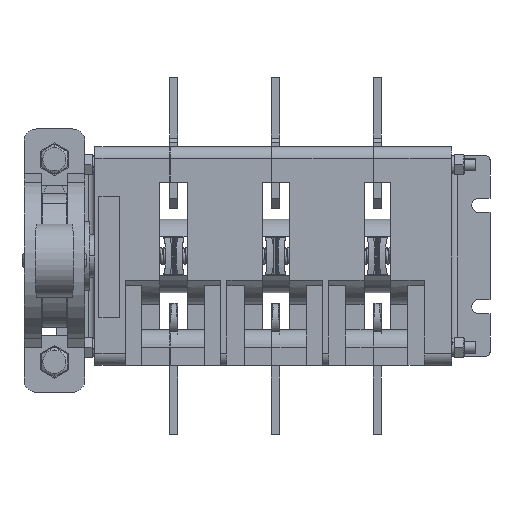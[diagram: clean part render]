
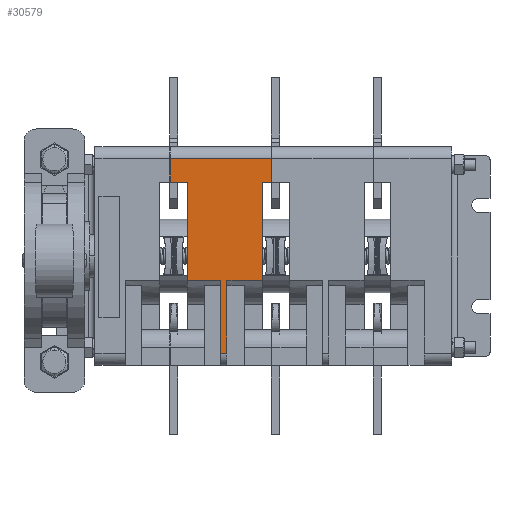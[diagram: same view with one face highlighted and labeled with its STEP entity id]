
A CAD part, front view. The second image highlights one B-rep face of the part: STEP entity #30579.
In plain terms, the highlighted planar face has unit normal (0, -1, 0) as drawn and (0, 1, 0) by its records, which use the part's own axes.
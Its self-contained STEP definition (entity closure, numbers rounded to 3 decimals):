
#226 = CARTESIAN_POINT ( 'NONE',  ( 36.5, 24., 0. ) ) ;
#267 = DIRECTION ( 'NONE',  ( 0., 0., -1. ) ) ;
#625 = CARTESIAN_POINT ( 'NONE',  ( -12., 24., 0. ) ) ;
#1460 = VERTEX_POINT ( 'NONE', #13496 ) ;
#1736 = PLANE ( 'NONE',  #26889 ) ;
#1745 = CARTESIAN_POINT ( 'NONE',  ( -48., 24., 16.5 ) ) ;
#1943 = VECTOR ( 'NONE', #9651, 1000. ) ;
#2130 = CARTESIAN_POINT ( 'NONE',  ( -48., 24., 19.5 ) ) ;
#3070 = EDGE_CURVE ( 'NONE', #11036, #35691, #59503, .T. ) ;
#3812 = ORIENTED_EDGE ( 'NONE', *, *, #8013, .F. ) ;
#4103 = CARTESIAN_POINT ( 'NONE',  ( -12., 24., 37. ) ) ;
#5347 = EDGE_CURVE ( 'NONE', #33474, #26994, #37505, .T. ) ;
#5512 = CARTESIAN_POINT ( 'NONE',  ( -48., 24., 19.5 ) ) ;
#5596 = VERTEX_POINT ( 'NONE', #39080 ) ;
#7627 = CARTESIAN_POINT ( 'NONE',  ( -48., 24., 16.5 ) ) ;
#7762 = VERTEX_POINT ( 'NONE', #7627 ) ;
#8013 = EDGE_CURVE ( 'NONE', #5596, #11036, #33528, .T. ) ;
#9651 = DIRECTION ( 'NONE',  ( -1., 0., 0. ) ) ;
#9930 = DIRECTION ( 'NONE',  ( 0., 0., 1. ) ) ;
#10214 = DIRECTION ( 'NONE',  ( -1., 0., 0. ) ) ;
#10983 = DIRECTION ( 'NONE',  ( -1., 0., 0. ) ) ;
#11036 = VERTEX_POINT ( 'NONE', #4103 ) ;
#11272 = EDGE_CURVE ( 'NONE', #58584, #33474, #56818, .T. ) ;
#13496 = CARTESIAN_POINT ( 'NONE',  ( 48., 24., 41.5 ) ) ;
#13625 = LINE ( 'NONE', #42566, #28243 ) ;
#13807 = ORIENTED_EDGE ( 'NONE', *, *, #3070, .F. ) ;
#13891 = CARTESIAN_POINT ( 'NONE',  ( 36.5, 24., -8.5 ) ) ;
#14057 = CARTESIAN_POINT ( 'NONE',  ( -48., 24., 19.5 ) ) ;
#16224 = CARTESIAN_POINT ( 'NONE',  ( 36.5, 24., 41.5 ) ) ;
#16299 = VECTOR ( 'NONE', #47539, 1000. ) ;
#17565 = ORIENTED_EDGE ( 'NONE', *, *, #11272, .T. ) ;
#17613 = VECTOR ( 'NONE', #9930, 1000. ) ;
#18668 = LINE ( 'NONE', #14057, #43731 ) ;
#18906 = CARTESIAN_POINT ( 'NONE',  ( -12., 24., 19.5 ) ) ;
#19709 = LINE ( 'NONE', #39431, #29926 ) ;
#20188 = LINE ( 'NONE', #5512, #37107 ) ;
#21021 = DIRECTION ( 'NONE',  ( 0., 0., -1. ) ) ;
#21636 = CARTESIAN_POINT ( 'NONE',  ( 48., 24., -8.5 ) ) ;
#22010 = ORIENTED_EDGE ( 'NONE', *, *, #53431, .F. ) ;
#22374 = LINE ( 'NONE', #56973, #31198 ) ;
#23014 = ORIENTED_EDGE ( 'NONE', *, *, #50406, .F. ) ;
#23897 = ORIENTED_EDGE ( 'NONE', *, *, #5347, .T. ) ;
#24347 = ORIENTED_EDGE ( 'NONE', *, *, #34873, .F. ) ;
#25515 = CARTESIAN_POINT ( 'NONE',  ( 36.5, 24., 41.5 ) ) ;
#25560 = EDGE_CURVE ( 'NONE', #1460, #52949, #19709, .T. ) ;
#26747 = FACE_OUTER_BOUND ( 'NONE', #57867, .T. ) ;
#26889 = AXIS2_PLACEMENT_3D ( 'NONE', #2130, #34998, #58540 ) ;
#26994 = VERTEX_POINT ( 'NONE', #37553 ) ;
#28225 = CARTESIAN_POINT ( 'NONE',  ( 48., 24., -8.5 ) ) ;
#28243 = VECTOR ( 'NONE', #37978, 1000. ) ;
#29729 = DIRECTION ( 'NONE',  ( -1., 0., 0. ) ) ;
#29829 = LINE ( 'NONE', #21636, #43145 ) ;
#29926 = VECTOR ( 'NONE', #29729, 1000. ) ;
#30579 = ADVANCED_FACE ( 'NONE', ( #26747 ), #1736, .F. ) ;
#31063 = DIRECTION ( 'NONE',  ( 1., 0., 0. ) ) ;
#31198 = VECTOR ( 'NONE', #37584, 1000. ) ;
#31243 = CARTESIAN_POINT ( 'NONE',  ( -12., 24., 49.423 ) ) ;
#31724 = VERTEX_POINT ( 'NONE', #28225 ) ;
#32846 = CARTESIAN_POINT ( 'NONE',  ( 36.5, 24., 37. ) ) ;
#33474 = VERTEX_POINT ( 'NONE', #625 ) ;
#33528 = LINE ( 'NONE', #32846, #1943 ) ;
#33645 = CARTESIAN_POINT ( 'NONE',  ( 36.5, 24., 0. ) ) ;
#34873 = EDGE_CURVE ( 'NONE', #46781, #31724, #29829, .T. ) ;
#34998 = DIRECTION ( 'NONE',  ( 0., -1., 0. ) ) ;
#35117 = VECTOR ( 'NONE', #10983, 1000. ) ;
#35691 = VERTEX_POINT ( 'NONE', #18906 ) ;
#37107 = VECTOR ( 'NONE', #10214, 1000. ) ;
#37505 = LINE ( 'NONE', #60960, #17613 ) ;
#37553 = CARTESIAN_POINT ( 'NONE',  ( -12., 24., 16.5 ) ) ;
#37584 = DIRECTION ( 'NONE',  ( 0., 0., -1. ) ) ;
#37978 = DIRECTION ( 'NONE',  ( 0., 0., 1. ) ) ;
#39080 = CARTESIAN_POINT ( 'NONE',  ( 36.5, 24., 37. ) ) ;
#39431 = CARTESIAN_POINT ( 'NONE',  ( 36.5, 24., 41.5 ) ) ;
#39637 = EDGE_CURVE ( 'NONE', #26994, #7762, #60223, .T. ) ;
#40081 = VERTEX_POINT ( 'NONE', #56422 ) ;
#40146 = DIRECTION ( 'NONE',  ( 0., 0., -1. ) ) ;
#41830 = ORIENTED_EDGE ( 'NONE', *, *, #49866, .T. ) ;
#42566 = CARTESIAN_POINT ( 'NONE',  ( 36.5, 24., -8.5 ) ) ;
#43145 = VECTOR ( 'NONE', #31063, 1000. ) ;
#43154 = LINE ( 'NONE', #25515, #60080 ) ;
#43731 = VECTOR ( 'NONE', #267, 1000. ) ;
#43835 = ORIENTED_EDGE ( 'NONE', *, *, #39637, .T. ) ;
#44047 = VECTOR ( 'NONE', #40146, 1000. ) ;
#46781 = VERTEX_POINT ( 'NONE', #13891 ) ;
#47539 = DIRECTION ( 'NONE',  ( -1., 0., 0. ) ) ;
#48551 = EDGE_CURVE ( 'NONE', #52949, #5596, #43154, .T. ) ;
#49866 = EDGE_CURVE ( 'NONE', #1460, #31724, #22374, .T. ) ;
#50011 = EDGE_CURVE ( 'NONE', #46781, #58584, #13625, .T. ) ;
#50406 = EDGE_CURVE ( 'NONE', #40081, #7762, #18668, .T. ) ;
#51225 = ORIENTED_EDGE ( 'NONE', *, *, #48551, .F. ) ;
#52949 = VERTEX_POINT ( 'NONE', #16224 ) ;
#53431 = EDGE_CURVE ( 'NONE', #35691, #40081, #20188, .T. ) ;
#53544 = ORIENTED_EDGE ( 'NONE', *, *, #50011, .T. ) ;
#54877 = ORIENTED_EDGE ( 'NONE', *, *, #25560, .F. ) ;
#56422 = CARTESIAN_POINT ( 'NONE',  ( -48., 24., 19.5 ) ) ;
#56818 = LINE ( 'NONE', #33645, #16299 ) ;
#56973 = CARTESIAN_POINT ( 'NONE',  ( 48., 24., 19.5 ) ) ;
#57867 = EDGE_LOOP ( 'NONE', ( #22010, #13807, #3812, #51225, #54877, #41830, #24347, #53544, #17565, #23897, #43835, #23014 ) ) ;
#58540 = DIRECTION ( 'NONE',  ( 1., 0., 0. ) ) ;
#58584 = VERTEX_POINT ( 'NONE', #226 ) ;
#59503 = LINE ( 'NONE', #31243, #44047 ) ;
#60080 = VECTOR ( 'NONE', #21021, 1000. ) ;
#60223 = LINE ( 'NONE', #1745, #35117 ) ;
#60960 = CARTESIAN_POINT ( 'NONE',  ( -12., 24., -12.423 ) ) ;
